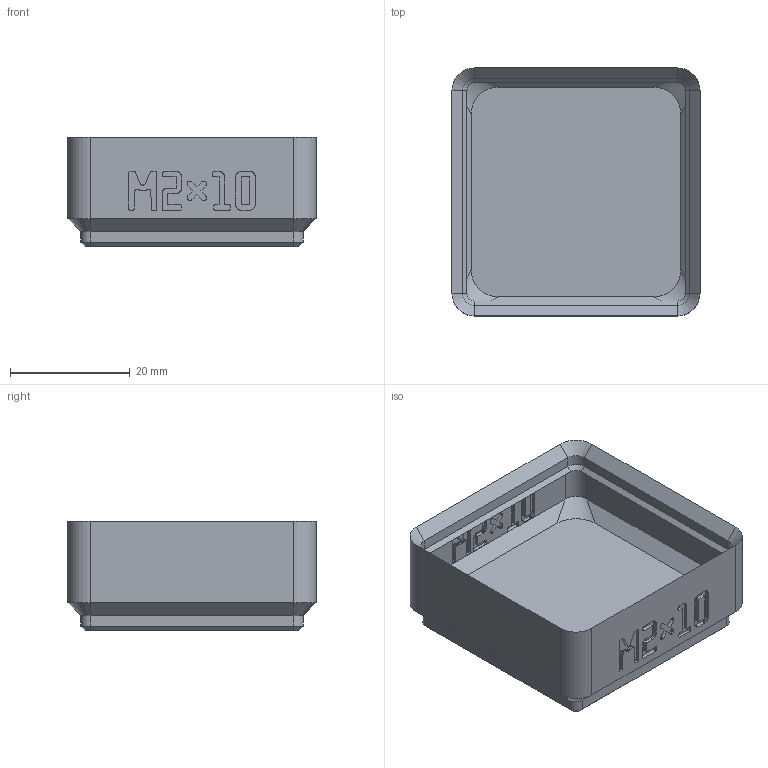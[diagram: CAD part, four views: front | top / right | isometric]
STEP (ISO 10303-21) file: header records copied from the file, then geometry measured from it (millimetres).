
FILE_DESCRIPTION(('Open CASCADE Model'),'2;1');
FILE_NAME('bin_m2x10','2026-11-16T17:21:33',('Author'),('Open CASCADE'), 'Open CASCADE STEP processor 8.0','build123d','Unknown');
FILE_SCHEMA(('AUTOMOTIVE_DESIGN { 1 0 10303 214 1 1 1 1 }'));
Products named in the file (1): bin_m2x10
Bounding box: 41.5 x 41.5 x 18.4 mm (x, y, z)
Volume: 10966.8 mm3; surface area: 8360.1 mm2
Topology: 1 solids, 1 shells, 1065 faces, 3070 edges, 2028 vertices
Faces by surface type: plane 1017, cylinder 24, cone 16, bspline 8
Full cylindrical faces by diameter (mm): 3.2 x4, 6.5 x4
Entity records: 72076 total; most frequent: CARTESIAN_POINT 14496, DIRECTION 9294, LINE 7030, VECTOR 7030, ORIENTED_EDGE 6140, PCURVE 6140, DEFINITIONAL_REPRESENTATION 6140, EDGE_CURVE 3070
